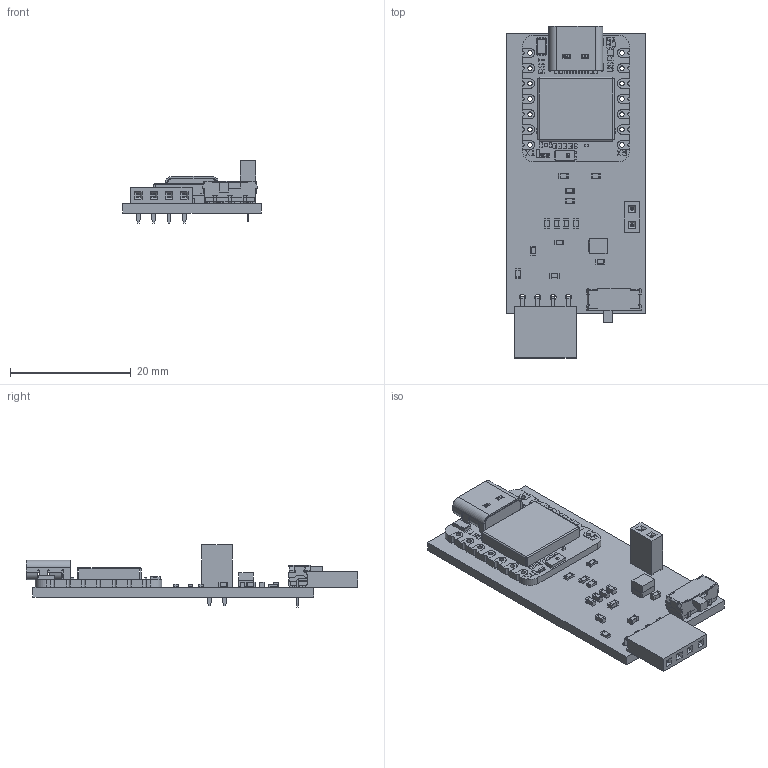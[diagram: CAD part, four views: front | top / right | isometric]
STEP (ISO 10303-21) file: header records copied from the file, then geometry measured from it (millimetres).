
FILE_DESCRIPTION(('KiCad electronic assembly'),'2;1');
FILE_NAME('FDC_IDC.step','2024-10-30T11:19:33',('Pcbnew'),('Kicad'), 'Open CASCADE STEP processor 7.7','KiCad to STEP converter','Unknown' );
FILE_SCHEMA(('AUTOMOTIVE_DESIGN { 1 0 10303 214 1 1 1 1 }'));
Length unit declared in the file: millimetre
Products named in the file (16): FDC_IDC 1; JS202011JAQN; JS102011JAQN; C_0603_1608Metric; R_0603_1608Metric; NLFV32T-681K-EF; ASSEMBLY; PinSocket_1x04_P2.54mm_Horizontal; PinSocket_1x04_P254mm_Horizontal; 102010448; PinSocket_1x02_P2.54mm_Vertical; PinSocket_1x02_P254mm_Vertical; FDC_IDC PCB
Assembly tree (26 placements, depth 3):
  FDC_IDC 1
    JS202011JAQN
      JS102011JAQN
    C_0603_1608Metric  x8
      C_0603_1608Metric
    R_0603_1608Metric  x5
      R_0603_1608Metric
    NLFV32T-681K-EF
      ASSEMBLY
    PinSocket_1x04_P2.54mm_Horizontal
      PinSocket_1x04_P254mm_Horizontal
    102010448
      102010448
    PinSocket_1x02_P2.54mm_Vertical
      PinSocket_1x02_P254mm_Vertical
    FDC_IDC PCB
Bounding box: 23 x 54.98 x 10.3 mm (x, y, z)
Volume: 2474.7 mm3; surface area: 5147.1 mm2
Topology: 104 solids, 104 shells, 2578 faces, 6622 edges, 4312 vertices
Faces by surface type: plane 2047, cylinder 483, bspline 36, cone 12
Full cylindrical faces by diameter (mm): 0.889 x2, 1 x20
Entity records: 152844 total; most frequent: CARTESIAN_POINT 30540, DIRECTION 22186, LINE 15788, VECTOR 15788, ORIENTED_EDGE 11644, PCURVE 11644, DEFINITIONAL_REPRESENTATION 11644, EDGE_CURVE 5822
